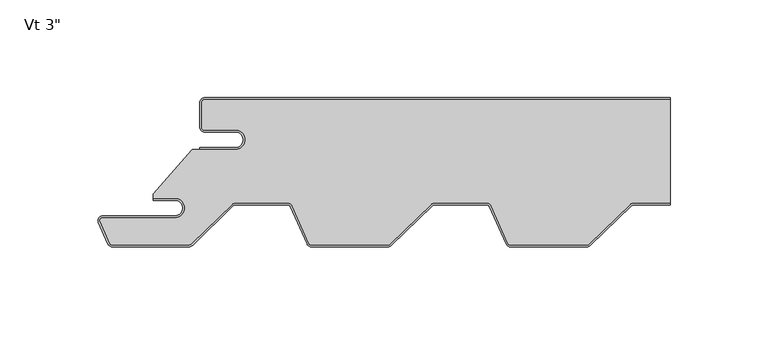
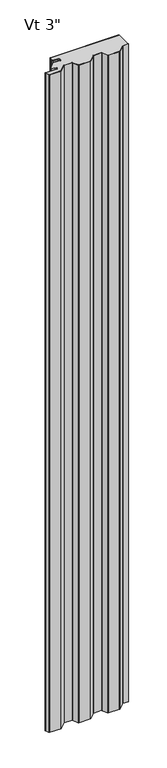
"""IFC4 building model written with IfcOpenShell, lengths in millimetres: plate geometry."""

from ifc_helpers import new_model, si_unit, point, frame_2d, origin, origin_with_axes, place, context, project, spatial, polyline, circle_curve, trimmed, segment, composite_curve, outline, extrude, source, transform, mapped, element, save


def plate_c36fa436(model_context):
    return source(origin(), model_context, "Body", "SweptSolid", [
        extrude(outline(composite_curve([segment(trimmed(circle_curve(frame_2d((-101.3499998, -21.4324412)), 4.96875), [point((-101.3499998, -26.4011912))], [point((-101.3499998, -16.4636912))], True, "CARTESIAN"), True, "CONTINUOUS"), segment(polyline([(-101.3499998, -16.4636912), (-117.2249998, -16.4636912)]), True, "CONTINUOUS"), segment(trimmed(circle_curve(frame_2d((-117.2249998, -15.0824412)), 1.38125), [point((-117.2249998, -16.4636912))], [point((-118.6062498, -15.0824412))], False, "CARTESIAN"), True, "CONTINUOUS"), segment(polyline([(-118.6062498, -15.0824412), (-118.6062498, -2.3824412)]), True, "CONTINUOUS"), segment(trimmed(circle_curve(frame_2d((-117.2249998, -2.3824412)), 1.38125), [point((-118.6062498, -2.3824412))], [point((-117.2249998, -1.0011912))], False, "CARTESIAN"), True, "CONTINUOUS"), segment(polyline([(-117.2249998, -1.0011912), (120.3999998, -1.0011912), (120.3999998, -53.6862), (101.8679504, -53.6862)]), True, "CONTINUOUS"), segment(trimmed(circle_curve(frame_2d((101.8679504, -56.2737)), 2.5875), [point((101.8679504, -53.6862))], [point((100.0682998, -54.4145567))], True, "CARTESIAN"), True, "CONTINUOUS"), segment(polyline([(100.0682998, -54.4145567), (78.9973964, -74.8111912)]), True, "CONTINUOUS"), segment(trimmed(circle_curve(frame_2d((78.0367133, -73.81875)), 1.38125), [point((78.9973964, -74.8111912))], [point((78.0367133, -75.2))], False, "CARTESIAN"), True, "CONTINUOUS"), segment(polyline([(78.0367133, -75.2), (38.9000059, -75.2)]), True, "CONTINUOUS"), segment(trimmed(circle_curve(frame_2d((38.9000059, -73.81875)), 1.38125), [point((38.9000059, -75.2))], [point((37.6370056, -74.3779296))], False, "CARTESIAN"), True, "CONTINUOUS"), segment(polyline([(37.6370056, -74.3779296), (29.1577807, -55.2261871)]), True, "CONTINUOUS"), segment(trimmed(circle_curve(frame_2d((26.7917983, -56.2737)), 2.5875), [point((29.1577807, -55.2261871))], [point((26.7917983, -53.6862))], True, "CARTESIAN"), True, "CONTINUOUS"), segment(polyline([(26.7917983, -53.6862), (0.2679504, -53.6862)]), True, "CONTINUOUS"), segment(trimmed(circle_curve(frame_2d((0.2679504, -56.2737)), 2.5875), [point((0.2679504, -53.6862))], [point((-1.5317002, -54.4145567))], True, "CARTESIAN"), True, "CONTINUOUS"), segment(polyline([(-1.5317002, -54.4145567), (-22.6026036, -74.8111912)]), True, "CONTINUOUS"), segment(trimmed(circle_curve(frame_2d((-23.5632867, -73.81875)), 1.38125), [point((-22.6026036, -74.8111912))], [point((-23.5632867, -75.2))], False, "CARTESIAN"), True, "CONTINUOUS"), segment(polyline([(-23.5632867, -75.2), (-62.6999941, -75.2)]), True, "CONTINUOUS"), segment(trimmed(circle_curve(frame_2d((-62.6999941, -73.81875)), 1.38125), [point((-62.6999941, -75.2))], [point((-63.9629944, -74.3779296))], False, "CARTESIAN"), True, "CONTINUOUS"), segment(polyline([(-63.9629944, -74.3779296), (-72.4422193, -55.2261871)]), True, "CONTINUOUS"), segment(trimmed(circle_curve(frame_2d((-74.8082017, -56.2737)), 2.5875), [point((-72.4422193, -55.2261871))], [point((-74.8082017, -53.6862))], True, "CARTESIAN"), True, "CONTINUOUS"), segment(polyline([(-74.8082017, -53.6862), (-101.3320496, -53.6862)]), True, "CONTINUOUS"), segment(trimmed(circle_curve(frame_2d((-101.3320496, -56.2737)), 2.5875), [point((-101.3320496, -53.6862))], [point((-103.1317002, -54.4145567))], True, "CARTESIAN"), True, "CONTINUOUS"), segment(polyline([(-103.1317002, -54.4145567), (-123.993943, -74.6092077)]), True, "CONTINUOUS"), segment(trimmed(circle_curve(frame_2d((-125.4536944, -73.1012)), 2.0988), [point((-123.993943, -74.6092077))], [point((-125.4536944, -75.2))], False, "CARTESIAN"), True, "CONTINUOUS"), segment(polyline([(-125.4536944, -75.2), (-164.2999941, -75.2)]), True, "CONTINUOUS"), segment(trimmed(circle_curve(frame_2d((-164.2999941, -73.81875)), 1.38125), [point((-164.2999941, -75.2))], [point((-165.5629944, -74.3779296))], False, "CARTESIAN"), True, "CONTINUOUS"), segment(polyline([(-165.5629944, -74.3779296), (-170.4824051, -63.2666208)]), True, "CONTINUOUS"), segment(trimmed(circle_curve(frame_2d((-169.2194048, -62.7074412)), 1.38125), [point((-170.4824051, -63.2666208))], [point((-169.2194048, -61.3261912))], False, "CARTESIAN"), True, "CONTINUOUS"), segment(polyline([(-169.2194048, -61.3261912), (-132.3062498, -61.3261912)]), True, "CONTINUOUS"), segment(trimmed(circle_curve(frame_2d((-132.3062498, -56.3574412)), 4.96875), [point((-132.3062498, -61.3261912))], [point((-132.3062498, -51.3886912))], True, "CARTESIAN"), True, "CONTINUOUS"), segment(polyline([(-132.3062498, -51.3886912), (-143.4187498, -51.3886912), (-143.4187498, -49.233822), (-123.597661, -26.4011912), (-101.3499998, -26.4011912)]), True, "CONTINUOUS")], self_intersect=False)), origin_with_axes(), (0.0, 0.0, 1.0), 2400.0),
        extrude(outline(composite_curve([segment(polyline([(-119.6062498, -25.4), (-101.3499998, -25.4)]), True, "CONTINUOUS"), segment(trimmed(circle_curve(frame_2d((-101.3499998, -21.43125)), 3.96875), [point((-101.3499998, -25.4))], [point((-101.3499998, -17.4625))], True, "CARTESIAN"), True, "CONTINUOUS"), segment(polyline([(-101.3499998, -17.4625), (-117.2249998, -17.4625)]), True, "CONTINUOUS"), segment(trimmed(circle_curve(frame_2d((-117.2249998, -15.08125)), 2.38125), [point((-117.2249998, -17.4625))], [point((-119.6062498, -15.08125))], False, "CARTESIAN"), True, "CONTINUOUS"), segment(polyline([(-119.6062498, -15.08125), (-119.6062498, -2.38125)]), True, "CONTINUOUS"), segment(trimmed(circle_curve(frame_2d((-117.2249998, -2.38125)), 2.38125), [point((-119.6062498, -2.38125))], [point((-117.2249998, 0.0))], False, "CARTESIAN"), True, "CONTINUOUS"), segment(polyline([(-117.2249998, 0.0), (120.3999998, 0.0), (120.3999998, -1.0), (-117.2249998, -1.0)]), True, "CONTINUOUS"), segment(trimmed(circle_curve(frame_2d((-117.2249998, -2.38125)), 1.38125), [point((-117.2249998, -1.0))], [point((-118.6062498, -2.38125))], True, "CARTESIAN"), True, "CONTINUOUS"), segment(polyline([(-118.6062498, -2.38125), (-118.6062498, -15.08125)]), True, "CONTINUOUS"), segment(trimmed(circle_curve(frame_2d((-117.2249998, -15.08125)), 1.38125), [point((-118.6062498, -15.08125))], [point((-117.2249998, -16.4625))], True, "CARTESIAN"), True, "CONTINUOUS"), segment(polyline([(-117.2249998, -16.4625), (-101.3499998, -16.4625)]), True, "CONTINUOUS"), segment(trimmed(circle_curve(frame_2d((-101.3499998, -21.43125)), 4.96875), [point((-101.3499998, -16.4625))], [point((-101.3499998, -26.4))], False, "CARTESIAN"), True, "CONTINUOUS"), segment(polyline([(-101.3499998, -26.4), (-119.6062498, -26.4), (-119.6062498, -25.4)]), True, "CONTINUOUS")], self_intersect=False)), origin_with_axes(), (0.0, 0.0, 1.0), 2400.0),
        extrude(outline(composite_curve([segment(trimmed(circle_curve(frame_2d((-132.3062498, -56.3574412)), 3.96875), [point((-132.3062498, -60.3261912))], [point((-132.3062498, -52.3886912))], True, "CARTESIAN"), True, "CONTINUOUS"), segment(polyline([(-132.3062498, -52.3886912), (-143.4187498, -52.3886912), (-143.4187498, -51.3886912), (-132.3062498, -51.3886912)]), True, "CONTINUOUS"), segment(trimmed(circle_curve(frame_2d((-132.3062498, -56.3574412)), 4.96875), [point((-132.3062498, -51.3886912))], [point((-132.3062498, -61.3261912))], False, "CARTESIAN"), True, "CONTINUOUS"), segment(polyline([(-132.3062498, -61.3261912), (-169.2194048, -61.3261912)]), True, "CONTINUOUS"), segment(trimmed(circle_curve(frame_2d((-169.2194048, -62.7074412)), 1.38125), [point((-169.2194048, -61.3261912))], [point((-170.4824051, -63.2666208))], True, "CARTESIAN"), True, "CONTINUOUS"), segment(polyline([(-170.4824051, -63.2666208), (-165.5629944, -74.3779296)]), True, "CONTINUOUS"), segment(trimmed(circle_curve(frame_2d((-164.2999941, -73.81875)), 1.38125), [point((-165.5629944, -74.3779296))], [point((-164.2999941, -75.2))], True, "CARTESIAN"), True, "CONTINUOUS"), segment(polyline([(-164.2999941, -75.2), (-125.4536944, -75.2)]), True, "CONTINUOUS"), segment(trimmed(circle_curve(frame_2d((-125.4536944, -73.1012)), 2.0988), [point((-125.4536944, -75.2))], [point((-123.993943, -74.6092077))], True, "CARTESIAN"), True, "CONTINUOUS"), segment(polyline([(-123.993943, -74.6092077), (-103.1317002, -54.4145567)]), True, "CONTINUOUS"), segment(trimmed(circle_curve(frame_2d((-101.3320496, -56.2737)), 2.5875), [point((-103.1317002, -54.4145567))], [point((-101.3320496, -53.6862))], False, "CARTESIAN"), True, "CONTINUOUS"), segment(polyline([(-101.3320496, -53.6862), (-74.8082017, -53.6862)]), True, "CONTINUOUS"), segment(trimmed(circle_curve(frame_2d((-74.8082017, -56.2737)), 2.5875), [point((-74.8082017, -53.6862))], [point((-72.4422193, -55.2261871))], False, "CARTESIAN"), True, "CONTINUOUS"), segment(polyline([(-72.4422193, -55.2261871), (-63.9629944, -74.3779296)]), True, "CONTINUOUS"), segment(trimmed(circle_curve(frame_2d((-62.6999941, -73.81875)), 1.38125), [point((-63.9629944, -74.3779296))], [point((-62.6999941, -75.2))], True, "CARTESIAN"), True, "CONTINUOUS"), segment(polyline([(-62.6999941, -75.2), (-23.5632867, -75.2)]), True, "CONTINUOUS"), segment(trimmed(circle_curve(frame_2d((-23.5632867, -73.81875)), 1.38125), [point((-23.5632867, -75.2))], [point((-22.6026036, -74.8111912))], True, "CARTESIAN"), True, "CONTINUOUS"), segment(polyline([(-22.6026036, -74.8111912), (-1.5317002, -54.4145567)]), True, "CONTINUOUS"), segment(trimmed(circle_curve(frame_2d((0.2679504, -56.2737)), 2.5875), [point((-1.5317002, -54.4145567))], [point((0.2679504, -53.6862))], False, "CARTESIAN"), True, "CONTINUOUS"), segment(polyline([(0.2679504, -53.6862), (26.7917983, -53.6862)]), True, "CONTINUOUS"), segment(trimmed(circle_curve(frame_2d((26.7917983, -56.2737)), 2.5875), [point((26.7917983, -53.6862))], [point((29.1577807, -55.2261871))], False, "CARTESIAN"), True, "CONTINUOUS"), segment(polyline([(29.1577807, -55.2261871), (37.6370056, -74.3779296)]), True, "CONTINUOUS"), segment(trimmed(circle_curve(frame_2d((38.9000059, -73.81875)), 1.38125), [point((37.6370056, -74.3779296))], [point((38.9000059, -75.2))], True, "CARTESIAN"), True, "CONTINUOUS"), segment(polyline([(38.9000059, -75.2), (78.0367133, -75.2)]), True, "CONTINUOUS"), segment(trimmed(circle_curve(frame_2d((78.0367133, -73.81875)), 1.38125), [point((78.0367133, -75.2))], [point((78.9973964, -74.8111912))], True, "CARTESIAN"), True, "CONTINUOUS"), segment(polyline([(78.9973964, -74.8111912), (100.0682998, -54.4145567)]), True, "CONTINUOUS"), segment(trimmed(circle_curve(frame_2d((101.8679504, -56.2737)), 2.5875), [point((100.0682998, -54.4145567))], [point((101.8679504, -53.6862))], False, "CARTESIAN"), True, "CONTINUOUS"), segment(polyline([(101.8679504, -53.6862), (120.3999998, -53.6862), (120.3999998, -54.6862), (101.8679504, -54.6862)]), True, "CONTINUOUS"), segment(trimmed(circle_curve(frame_2d((101.8679504, -56.2737)), 1.5875), [point((101.8679504, -54.6862))], [point((100.7638169, -55.1330662))], True, "CARTESIAN"), True, "CONTINUOUS"), segment(polyline([(100.7638169, -55.1330662), (79.6929135, -75.5297007)]), True, "CONTINUOUS"), segment(trimmed(circle_curve(frame_2d((78.0367133, -73.81875)), 2.38125), [point((79.6929135, -75.5297007))], [point((78.0367133, -76.2))], False, "CARTESIAN"), True, "CONTINUOUS"), segment(polyline([(78.0367133, -76.2), (38.9000059, -76.2)]), True, "CONTINUOUS"), segment(trimmed(circle_curve(frame_2d((38.9000059, -73.81875)), 2.38125), [point((38.9000059, -76.2))], [point((36.7226162, -74.7827655))], False, "CARTESIAN"), True, "CONTINUOUS"), segment(polyline([(36.7226162, -74.7827655), (28.2433914, -55.631023)]), True, "CONTINUOUS"), segment(trimmed(circle_curve(frame_2d((26.7917983, -56.2737)), 1.5875), [point((28.2433914, -55.631023))], [point((26.7917983, -54.6862))], True, "CARTESIAN"), True, "CONTINUOUS"), segment(polyline([(26.7917983, -54.6862), (0.2679504, -54.6862)]), True, "CONTINUOUS"), segment(trimmed(circle_curve(frame_2d((0.2679504, -56.2737)), 1.5875), [point((0.2679504, -54.6862))], [point((-0.8361831, -55.1330662))], True, "CARTESIAN"), True, "CONTINUOUS"), segment(polyline([(-0.8361831, -55.1330662), (-21.9070865, -75.5297007)]), True, "CONTINUOUS"), segment(trimmed(circle_curve(frame_2d((-23.5632867, -73.81875)), 2.38125), [point((-21.9070865, -75.5297007))], [point((-23.5632867, -76.2))], False, "CARTESIAN"), True, "CONTINUOUS"), segment(polyline([(-23.5632867, -76.2), (-62.6999941, -76.2)]), True, "CONTINUOUS"), segment(trimmed(circle_curve(frame_2d((-62.6999941, -73.81875)), 2.38125), [point((-62.6999941, -76.2))], [point((-64.8773838, -74.7827655))], False, "CARTESIAN"), True, "CONTINUOUS"), segment(polyline([(-64.8773838, -74.7827655), (-73.3566086, -55.631023)]), True, "CONTINUOUS"), segment(trimmed(circle_curve(frame_2d((-74.8082017, -56.2737)), 1.5875), [point((-73.3566086, -55.631023))], [point((-74.8082017, -54.6862))], True, "CARTESIAN"), True, "CONTINUOUS"), segment(polyline([(-74.8082017, -54.6862), (-101.3320496, -54.6862)]), True, "CONTINUOUS"), segment(trimmed(circle_curve(frame_2d((-101.3320496, -56.2737)), 1.5875), [point((-101.3320496, -54.6862))], [point((-102.4361831, -55.1330662))], True, "CARTESIAN"), True, "CONTINUOUS"), segment(polyline([(-102.4361831, -55.1330662), (-123.2984258, -75.3277172)]), True, "CONTINUOUS"), segment(trimmed(circle_curve(frame_2d((-125.4536944, -73.1012)), 3.0988), [point((-123.2984258, -75.3277172))], [point((-125.4536944, -76.2))], False, "CARTESIAN"), True, "CONTINUOUS"), segment(polyline([(-125.4536944, -76.2), (-164.2999941, -76.2)]), True, "CONTINUOUS"), segment(trimmed(circle_curve(frame_2d((-164.2999941, -73.81875)), 2.38125), [point((-164.2999941, -76.2))], [point((-166.4773838, -74.7827655))], False, "CARTESIAN"), True, "CONTINUOUS"), segment(polyline([(-166.4773838, -74.7827655), (-171.3967944, -63.6714567)]), True, "CONTINUOUS"), segment(trimmed(circle_curve(frame_2d((-169.2194048, -62.7074412)), 2.38125), [point((-171.3967944, -63.6714567))], [point((-169.2194048, -60.3261912))], False, "CARTESIAN"), True, "CONTINUOUS"), segment(polyline([(-169.2194048, -60.3261912), (-132.3062498, -60.3261912)]), True, "CONTINUOUS")], self_intersect=False)), origin_with_axes(), (0.0, 0.0, 1.0), 2400.0),
    ])


if __name__ == "__main__":
    model = new_model("IFC4")
    model_context = context("Model", 3, world=origin())
    ifc_project = project(units=[si_unit("LENGTHUNIT", "METRE", prefix="MILLI")], contexts=[model_context])
    site = spatial("IfcSite", under=ifc_project)
    building = spatial("IfcBuilding", under=site)
    placement = place(None, origin())
    plate_shape = plate_c36fa436(model_context)
    element("IfcPlate", 1, ObjectType="KIP-12-DWR-R19-CP-Vt-S : Vt 3\"", at=placement, inside=building, context=model_context, shape_type="MappedRepresentation", body=[
        mapped(plate_shape, transform((0.0, 0.0, 0.0), x_axis=(1.0, 0.0, 0.0), y_axis=(0.0, 1.0, 0.0), z_axis=(0.0, 0.0, 1.0))),
    ])
    save(model, "model.ifc")
